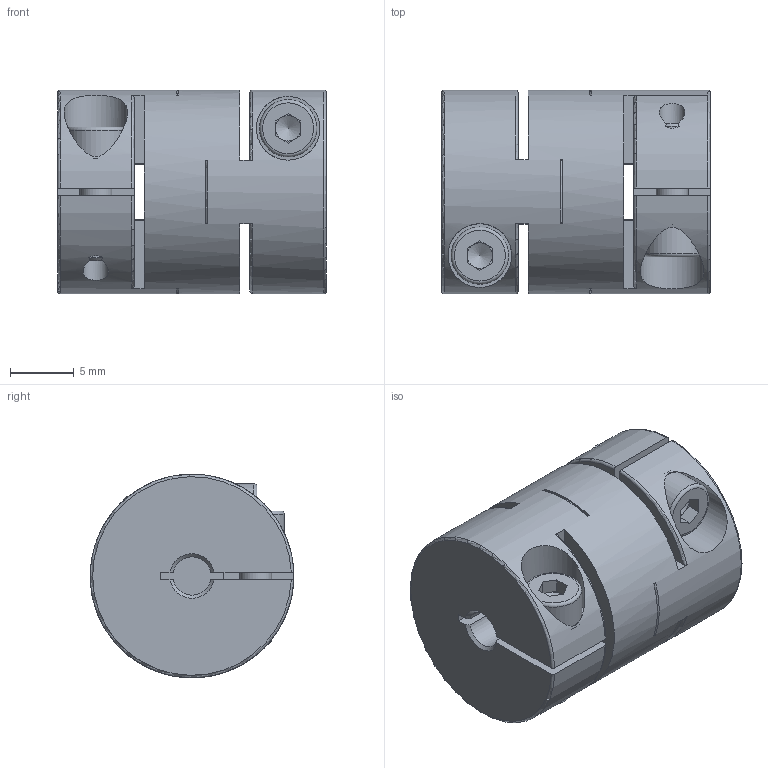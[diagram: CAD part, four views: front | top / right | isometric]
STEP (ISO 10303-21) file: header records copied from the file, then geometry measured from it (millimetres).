
FILE_DESCRIPTION( ( 'Unknown' ), '1' );
FILE_NAME( 'F:/JAKOB-STEP+IGES-Dateien/STEP-Dateien/MOH-C/MOH-C 16.stp', 'Unknown', ( 'Unknown' ), ( 'Unknown' ), 'PSStep 10.1', 'Unknown', ' ' );
FILE_SCHEMA( ( 'AUTOMOTIVE_DESIGN { 1 0 10303 214 1 1 1 1 }' ) );
Length unit declared in the file: millimetre
Products named in the file (1): KT100052-oa0
Bounding box: 21.1 x 16 x 16 mm (x, y, z)
Volume: 3632.1 mm3; surface area: 2664.6 mm2
Topology: 1 solids, 1 shells, 140 faces, 380 edges, 230 vertices
Faces by surface type: plane 64, cylinder 38, torus 18, cone 12, bspline 8
Full cylindrical faces by diameter (mm): 2.5 x2, 2.839 x2, 4.5 x2, 5 x2, 16 x1
Entity records: 5894 total; most frequent: CARTESIAN_POINT 1456, DIRECTION 680, ORIENTED_EDGE 680, EDGE_CURVE 340, AXIS2_PLACEMENT_3D 258, VERTEX_POINT 218, EDGE_LOOP 176, LINE 164
